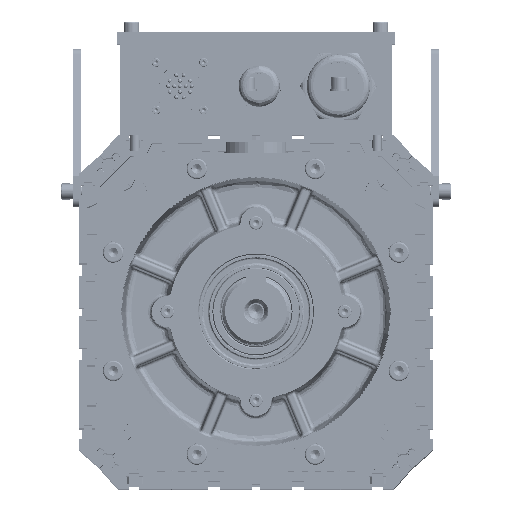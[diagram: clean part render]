
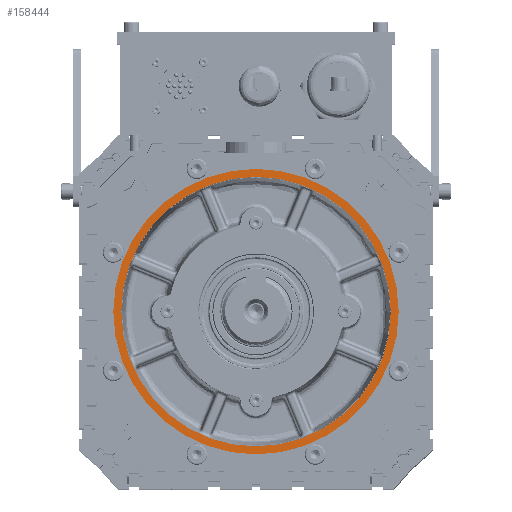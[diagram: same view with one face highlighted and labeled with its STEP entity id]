
A CAD part, top view. The second image highlights one B-rep face of the part: STEP entity #158444.
In plain terms, the highlighted planar face has unit normal (0, 0, 1) as drawn and (0, 0, -1) by its records, which use the part's own axes.
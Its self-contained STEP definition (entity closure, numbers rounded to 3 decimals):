
#302 = DIRECTION ( 'NONE',  ( -1., 0., 0. ) ) ;
#11743 = FACE_BOUND ( 'NONE', #117967, .T. ) ;
#15630 = VERTEX_POINT ( 'NONE', #23532 ) ;
#16466 = EDGE_CURVE ( 'NONE', #165579, #15630, #65867, .T. ) ;
#17825 = CARTESIAN_POINT ( 'NONE',  ( -28.364, -25.305, 205. ) ) ;
#21112 = DIRECTION ( 'NONE',  ( -1., 0., 0. ) ) ;
#23532 = CARTESIAN_POINT ( 'NONE',  ( 56.636, -25.305, 205. ) ) ;
#31861 = CARTESIAN_POINT ( 'NONE',  ( 61.636, -25.305, 205. ) ) ;
#38535 = VERTEX_POINT ( 'NONE', #31861 ) ;
#45352 = DIRECTION ( 'NONE',  ( 0., 0., -1. ) ) ;
#50353 = CIRCLE ( 'NONE', #105199, 85. ) ;
#51771 = EDGE_LOOP ( 'NONE', ( #70066, #127592 ) ) ;
#52335 = CARTESIAN_POINT ( 'NONE',  ( -28.364, -115.305, 205. ) ) ;
#58985 = EDGE_CURVE ( 'NONE', #15630, #165579, #50353, .T. ) ;
#65061 = DIRECTION ( 'NONE',  ( 0., 0., 1. ) ) ;
#65867 = CIRCLE ( 'NONE', #183795, 85. ) ;
#69224 = AXIS2_PLACEMENT_3D ( 'NONE', #52335, #65061, #79767 ) ;
#70066 = ORIENTED_EDGE ( 'NONE', *, *, #162971, .F. ) ;
#75021 = DIRECTION ( 'NONE',  ( 0., 0., 1. ) ) ;
#79767 = DIRECTION ( 'NONE',  ( 1., 0., 0. ) ) ;
#94299 = PLANE ( 'NONE',  #69224 ) ;
#94699 = DIRECTION ( 'NONE',  ( 0., 0., -1. ) ) ;
#96140 = DIRECTION ( 'NONE',  ( 0., 0., 1. ) ) ;
#98763 = EDGE_CURVE ( 'NONE', #38535, #147659, #133703, .T. ) ;
#105199 = AXIS2_PLACEMENT_3D ( 'NONE', #131922, #45352, #302 ) ;
#112997 = ORIENTED_EDGE ( 'NONE', *, *, #58985, .F. ) ;
#117967 = EDGE_LOOP ( 'NONE', ( #186490, #112997 ) ) ;
#124721 = CARTESIAN_POINT ( 'NONE',  ( -28.364, -25.305, 205. ) ) ;
#125529 = DIRECTION ( 'NONE',  ( -1., 0., 0. ) ) ;
#127592 = ORIENTED_EDGE ( 'NONE', *, *, #98763, .F. ) ;
#131922 = CARTESIAN_POINT ( 'NONE',  ( -28.364, -25.305, 205. ) ) ;
#133703 = CIRCLE ( 'NONE', #146546, 90. ) ;
#138878 = CARTESIAN_POINT ( 'NONE',  ( -28.364, -25.305, 205. ) ) ;
#142284 = CARTESIAN_POINT ( 'NONE',  ( -118.364, -25.305, 205. ) ) ;
#145997 = FACE_OUTER_BOUND ( 'NONE', #51771, .T. ) ;
#146546 = AXIS2_PLACEMENT_3D ( 'NONE', #138878, #96140, #125529 ) ;
#147659 = VERTEX_POINT ( 'NONE', #142284 ) ;
#148440 = CIRCLE ( 'NONE', #177914, 90. ) ;
#158444 = ADVANCED_FACE ( 'NONE', ( #145997, #11743 ), #94299, .F. ) ;
#162971 = EDGE_CURVE ( 'NONE', #147659, #38535, #148440, .T. ) ;
#164111 = DIRECTION ( 'NONE',  ( -1., 0., 0. ) ) ;
#165579 = VERTEX_POINT ( 'NONE', #170231 ) ;
#170231 = CARTESIAN_POINT ( 'NONE',  ( -113.364, -25.305, 205. ) ) ;
#177914 = AXIS2_PLACEMENT_3D ( 'NONE', #17825, #75021, #164111 ) ;
#183795 = AXIS2_PLACEMENT_3D ( 'NONE', #124721, #94699, #21112 ) ;
#186490 = ORIENTED_EDGE ( 'NONE', *, *, #16466, .F. ) ;
